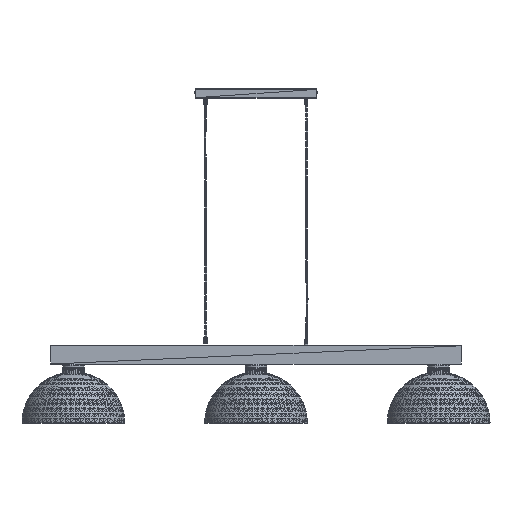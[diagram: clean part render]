
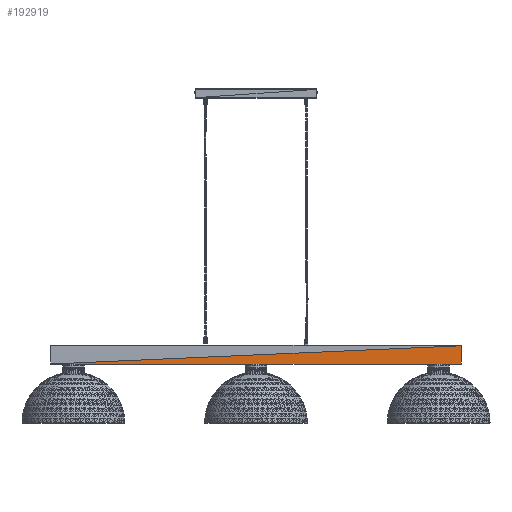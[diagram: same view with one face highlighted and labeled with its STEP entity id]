
A CAD part, front view. The second image highlights one B-rep face of the part: STEP entity #192919.
In plain terms, the highlighted planar face has unit normal (0, -1, 0).
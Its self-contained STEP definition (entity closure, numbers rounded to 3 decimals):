
#192433 = VERTEX_POINT('',#192434);
#192434 = CARTESIAN_POINT('',(1154.115,109.512,
    155.04));
#192448 = PLANE('',#192449);
#192449 = AXIS2_PLACEMENT_3D('',#192450,#192451,#192452);
#192450 = CARTESIAN_POINT('',(1154.241,109.546,
    179.168));
#192451 = DIRECTION('',(0.259,-0.966,
    0.));
#192452 = DIRECTION('',(-0.966,-0.259,
    0.));
#192492 = VERTEX_POINT('',#192493);
#192493 = CARTESIAN_POINT('',(1154.115,109.512,
    203.04));
#192514 = EDGE_CURVE('',#192492,#192433,#192515,.T.);
#192515 = SURFACE_CURVE('',#192516,(#192520,#192527),.PCURVE_S1.);
#192516 = LINE('',#192517,#192518);
#192517 = CARTESIAN_POINT('',(1154.115,109.512,
    203.04));
#192518 = VECTOR('',#192519,1.);
#192519 = DIRECTION('',(0.,0.,-1.));
#192520 = PCURVE('',#192448,#192521);
#192521 = DEFINITIONAL_REPRESENTATION('',(#192522),#192526);
#192522 = LINE('',#192523,#192524);
#192523 = CARTESIAN_POINT('',(0.13,-23.871));
#192524 = VECTOR('',#192525,1.);
#192525 = DIRECTION('',(0.,1.));
#192526 = ( GEOMETRIC_REPRESENTATION_CONTEXT(2) 
PARAMETRIC_REPRESENTATION_CONTEXT() REPRESENTATION_CONTEXT('2D SPACE',''
  ) );
#192527 = PCURVE('',#192528,#192533);
#192528 = PLANE('',#192529);
#192529 = AXIS2_PLACEMENT_3D('',#192530,#192531,#192532);
#192530 = CARTESIAN_POINT('',(626.848,109.512,
    167.307));
#192531 = DIRECTION('',(0.,-1.,0.));
#192532 = DIRECTION('',(0.,0.,-1.));
#192533 = DEFINITIONAL_REPRESENTATION('',(#192534),#192538);
#192534 = LINE('',#192535,#192536);
#192535 = CARTESIAN_POINT('',(-35.733,527.267));
#192536 = VECTOR('',#192537,1.);
#192537 = DIRECTION('',(1.,0.));
#192538 = ( GEOMETRIC_REPRESENTATION_CONTEXT(2) 
PARAMETRIC_REPRESENTATION_CONTEXT() REPRESENTATION_CONTEXT('2D SPACE',''
  ) );
#192919 = ADVANCED_FACE('',(#192920),#192528,.T.);
#192920 = FACE_BOUND('',#192921,.T.);
#192921 = EDGE_LOOP('',(#192922,#192950,#192976));
#192922 = ORIENTED_EDGE('',*,*,#192923,.T.);
#192923 = EDGE_CURVE('',#192492,#192924,#192926,.T.);
#192924 = VERTEX_POINT('',#192925);
#192925 = CARTESIAN_POINT('',(76.115,109.512,
    155.04));
#192926 = SURFACE_CURVE('',#192927,(#192931,#192938),.PCURVE_S1.);
#192927 = LINE('',#192928,#192929);
#192928 = CARTESIAN_POINT('',(1154.115,109.512,
    203.04));
#192929 = VECTOR('',#192930,1.);
#192930 = DIRECTION('',(-0.999,0.,-0.044));
#192931 = PCURVE('',#192528,#192932);
#192932 = DEFINITIONAL_REPRESENTATION('',(#192933),#192937);
#192933 = LINE('',#192934,#192935);
#192934 = CARTESIAN_POINT('',(-35.733,527.267));
#192935 = VECTOR('',#192936,1.);
#192936 = DIRECTION('',(0.044,-0.999));
#192937 = ( GEOMETRIC_REPRESENTATION_CONTEXT(2) 
PARAMETRIC_REPRESENTATION_CONTEXT() REPRESENTATION_CONTEXT('2D SPACE',''
  ) );
#192938 = PCURVE('',#192939,#192944);
#192939 = PLANE('',#192940);
#192940 = AXIS2_PLACEMENT_3D('',#192941,#192942,#192943);
#192941 = CARTESIAN_POINT('',(603.382,109.512,
    190.773));
#192942 = DIRECTION('',(0.,-1.,0.));
#192943 = DIRECTION('',(0.,0.,-1.));
#192944 = DEFINITIONAL_REPRESENTATION('',(#192945),#192949);
#192945 = LINE('',#192946,#192947);
#192946 = CARTESIAN_POINT('',(-12.267,550.733));
#192947 = VECTOR('',#192948,1.);
#192948 = DIRECTION('',(0.044,-0.999));
#192949 = ( GEOMETRIC_REPRESENTATION_CONTEXT(2) 
PARAMETRIC_REPRESENTATION_CONTEXT() REPRESENTATION_CONTEXT('2D SPACE',''
  ) );
#192950 = ORIENTED_EDGE('',*,*,#192951,.T.);
#192951 = EDGE_CURVE('',#192924,#192433,#192952,.T.);
#192952 = SURFACE_CURVE('',#192953,(#192957,#192964),.PCURVE_S1.);
#192953 = LINE('',#192954,#192955);
#192954 = CARTESIAN_POINT('',(76.115,109.512,
    155.04));
#192955 = VECTOR('',#192956,1.);
#192956 = DIRECTION('',(1.,0.,0.));
#192957 = PCURVE('',#192528,#192958);
#192958 = DEFINITIONAL_REPRESENTATION('',(#192959),#192963);
#192959 = LINE('',#192960,#192961);
#192960 = CARTESIAN_POINT('',(12.267,-550.733));
#192961 = VECTOR('',#192962,1.);
#192962 = DIRECTION('',(0.,1.));
#192963 = ( GEOMETRIC_REPRESENTATION_CONTEXT(2) 
PARAMETRIC_REPRESENTATION_CONTEXT() REPRESENTATION_CONTEXT('2D SPACE',''
  ) );
#192964 = PCURVE('',#192965,#192970);
#192965 = PLANE('',#192966);
#192966 = AXIS2_PLACEMENT_3D('',#192967,#192968,#192969);
#192967 = CARTESIAN_POINT('',(614.986,109.546,
    154.915));
#192968 = DIRECTION('',(0.,-0.966,
    -0.259));
#192969 = DIRECTION('',(0.,0.259,-0.966));
#192970 = DEFINITIONAL_REPRESENTATION('',(#192971),#192975);
#192971 = LINE('',#192972,#192973);
#192972 = CARTESIAN_POINT('',(-0.129,-538.871));
#192973 = VECTOR('',#192974,1.);
#192974 = DIRECTION('',(0.,1.));
#192975 = ( GEOMETRIC_REPRESENTATION_CONTEXT(2) 
PARAMETRIC_REPRESENTATION_CONTEXT() REPRESENTATION_CONTEXT('2D SPACE',''
  ) );
#192976 = ORIENTED_EDGE('',*,*,#192514,.F.);
